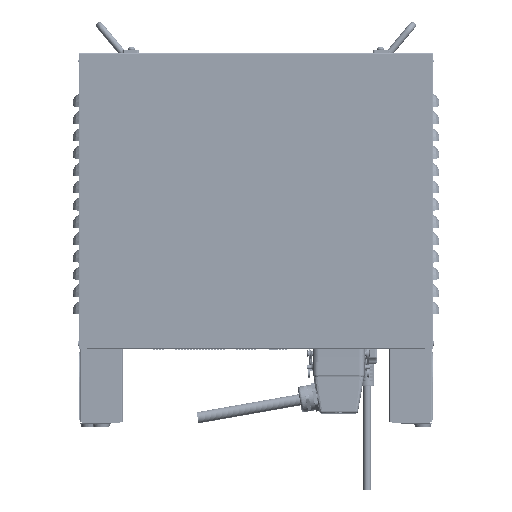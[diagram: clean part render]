
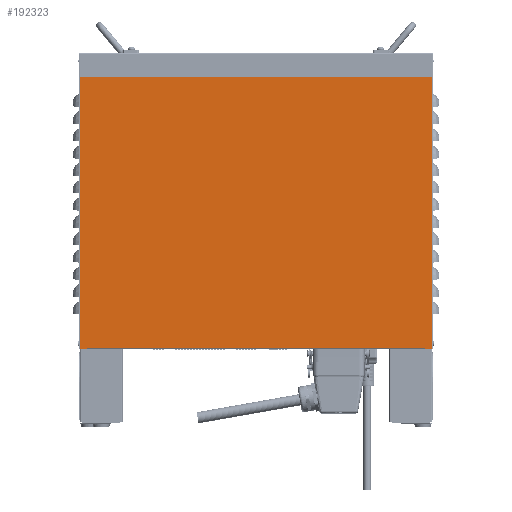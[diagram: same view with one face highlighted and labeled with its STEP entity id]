
A CAD part, front view. The second image highlights one B-rep face of the part: STEP entity #192323.
In plain terms, the highlighted planar face has unit normal (0, -1, 0).
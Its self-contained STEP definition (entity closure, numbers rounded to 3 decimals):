
#28436=DIRECTION('',(0.,0.,1.));
#28437=VECTOR('',#28436,315.);
#28438=CARTESIAN_POINT('',(1.,-210.,-314.));
#28439=LINE('',#28438,#28437);
#28444=DIRECTION('',(0.,0.,1.));
#28445=VECTOR('',#28444,1.05);
#28446=CARTESIAN_POINT('',(10.1,-210.,-314.));
#28447=LINE('',#28446,#28445);
#28448=DIRECTION('',(1.,0.,0.));
#28449=VECTOR('',#28448,9.1);
#28450=CARTESIAN_POINT('',(1.,-210.,-314.));
#28451=LINE('',#28450,#28449);
#28452=DIRECTION('',(-1.,0.,0.));
#28453=VECTOR('',#28452,10.9);
#28454=CARTESIAN_POINT('',(11.9,-210.,1.));
#28455=LINE('',#28454,#28453);
#28456=DIRECTION('',(0.,0.,1.));
#28457=VECTOR('',#28456,1.);
#28458=CARTESIAN_POINT('',(11.9,-210.,0.));
#28459=LINE('',#28458,#28457);
#28464=DIRECTION('',(0.,0.,-1.));
#28465=VECTOR('',#28464,315.);
#28466=CARTESIAN_POINT('',(409.,-210.,1.));
#28467=LINE('',#28466,#28465);
#45295=DIRECTION('',(-1.,0.,0.));
#45296=VECTOR('',#45295,9.1);
#45297=CARTESIAN_POINT('',(409.,-210.,-314.));
#45298=LINE('',#45297,#45296);
#45386=CARTESIAN_POINT('',(399.9,-210.,-312.95));
#45415=DIRECTION('',(0.,0.,1.));
#45416=VECTOR('',#45415,1.05);
#45417=CARTESIAN_POINT('',(399.9,-210.,-314.));
#45418=LINE('',#45417,#45416);
#45423=DIRECTION('',(-1.,0.,0.));
#45424=VECTOR('',#45423,389.8);
#45425=CARTESIAN_POINT('',(399.9,-210.,-312.95));
#45426=LINE('',#45425,#45424);
#46572=CARTESIAN_POINT('',(10.1,-210.,-312.95));
#46643=DIRECTION('',(1.,0.,0.));
#46644=VECTOR('',#46643,10.9);
#46645=CARTESIAN_POINT('',(398.1,-210.,1.));
#46646=LINE('',#46645,#46644);
#46669=DIRECTION('',(0.,0.,1.));
#46670=VECTOR('',#46669,1.);
#46671=CARTESIAN_POINT('',(398.1,-210.,0.));
#46672=LINE('',#46671,#46670);
#46673=DIRECTION('',(1.,0.,0.));
#46674=VECTOR('',#46673,386.2);
#46675=CARTESIAN_POINT('',(11.9,-210.,0.));
#46676=LINE('',#46675,#46674);
#155465=VERTEX_POINT('',#46572);
#155466=CARTESIAN_POINT('',(10.1,-210.,-314.));
#155467=VERTEX_POINT('',#155466);
#155480=VERTEX_POINT('',#45386);
#155482=CARTESIAN_POINT('',(399.9,-210.,-314.));
#155483=VERTEX_POINT('',#155482);
#155490=CARTESIAN_POINT('',(409.,-210.,-314.));
#155491=VERTEX_POINT('',#155490);
#155516=CARTESIAN_POINT('',(398.1,-210.,0.));
#155517=VERTEX_POINT('',#155516);
#155518=CARTESIAN_POINT('',(398.1,-210.,1.));
#155519=VERTEX_POINT('',#155518);
#155520=CARTESIAN_POINT('',(409.,-210.,1.));
#155521=VERTEX_POINT('',#155520);
#155540=CARTESIAN_POINT('',(11.9,-210.,0.));
#155541=VERTEX_POINT('',#155540);
#155542=CARTESIAN_POINT('',(11.9,-210.,1.));
#155543=VERTEX_POINT('',#155542);
#155564=CARTESIAN_POINT('',(1.,-210.,-314.));
#155565=CARTESIAN_POINT('',(1.,-210.,1.));
#155566=VERTEX_POINT('',#155564);
#155567=VERTEX_POINT('',#155565);
#192295=CARTESIAN_POINT('',(409.,-210.,-156.5));
#192296=DIRECTION('',(0.,-1.,0.));
#192297=DIRECTION('',(0.,0.,-1.));
#192298=AXIS2_PLACEMENT_3D('',#192295,#192296,#192297);
#192299=PLANE('',#192298);
#192301=ORIENTED_EDGE('',*,*,#192300,.T.);
#192303=ORIENTED_EDGE('',*,*,#192302,.T.);
#192305=ORIENTED_EDGE('',*,*,#192304,.T.);
#192307=ORIENTED_EDGE('',*,*,#192306,.T.);
#192309=ORIENTED_EDGE('',*,*,#192308,.F.);
#192310=ORIENTED_EDGE('',*,*,#192043,.F.);
#192311=ORIENTED_EDGE('',*,*,#192287,.T.);
#192312=ORIENTED_EDGE('',*,*,#192277,.F.);
#192314=ORIENTED_EDGE('',*,*,#192313,.F.);
#192316=ORIENTED_EDGE('',*,*,#192315,.T.);
#192318=ORIENTED_EDGE('',*,*,#192317,.T.);
#192320=ORIENTED_EDGE('',*,*,#192319,.T.);
#192321=EDGE_LOOP('',(#192301,#192303,#192305,#192307,#192309,#192310,#192311,
#192312,#192314,#192316,#192318,#192320));
#192322=FACE_OUTER_BOUND('',#192321,.F.);
#192043=EDGE_CURVE('',#155566,#155467,#28451,.T.);
#192277=EDGE_CURVE('',#155543,#155567,#28455,.T.);
#192287=EDGE_CURVE('',#155566,#155567,#28439,.T.);
#192300=EDGE_CURVE('',#155521,#155491,#28467,.T.);
#192302=EDGE_CURVE('',#155491,#155483,#45298,.T.);
#192304=EDGE_CURVE('',#155483,#155480,#45418,.T.);
#192306=EDGE_CURVE('',#155480,#155465,#45426,.T.);
#192308=EDGE_CURVE('',#155467,#155465,#28447,.T.);
#192313=EDGE_CURVE('',#155541,#155543,#28459,.T.);
#192315=EDGE_CURVE('',#155541,#155517,#46676,.T.);
#192317=EDGE_CURVE('',#155517,#155519,#46672,.T.);
#192319=EDGE_CURVE('',#155519,#155521,#46646,.T.);
#192323=ADVANCED_FACE('',(#192322),#192299,.T.);
